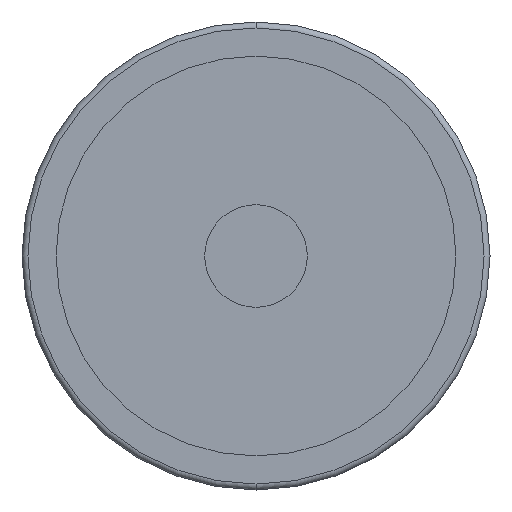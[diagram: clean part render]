
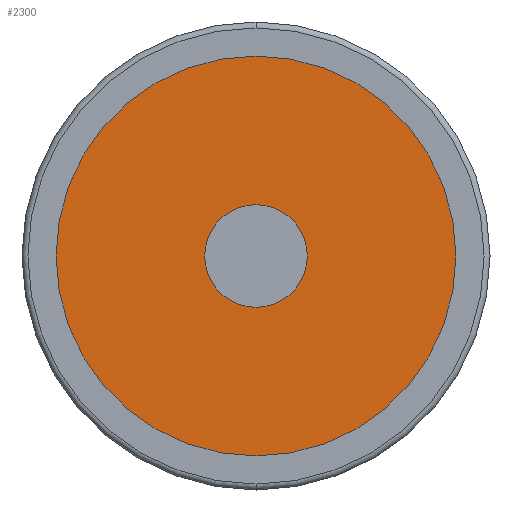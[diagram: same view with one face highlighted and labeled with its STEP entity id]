
A CAD part, front view. The second image highlights one B-rep face of the part: STEP entity #2300.
In plain terms, the highlighted planar face has unit normal (0, -1, 0).
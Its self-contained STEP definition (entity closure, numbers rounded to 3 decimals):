
#52 = CARTESIAN_POINT ( 'NONE',  ( 0., 4.5, 0. ) ) ;
#255 = CARTESIAN_POINT ( 'NONE',  ( -8., 4.5, 0. ) ) ;
#294 = CIRCLE ( 'NONE', #2075, 34.25 ) ;
#371 = DIRECTION ( 'NONE',  ( 0., -1., 0. ) ) ;
#394 = EDGE_CURVE ( 'NONE', #1654, #688, #294, .T. ) ;
#430 = AXIS2_PLACEMENT_3D ( 'NONE', #1537, #986, #1012 ) ;
#452 = DIRECTION ( 'NONE',  ( 0., -1., 0. ) ) ;
#474 = DIRECTION ( 'NONE',  ( 0., -1., 0. ) ) ;
#505 = AXIS2_PLACEMENT_3D ( 'NONE', #1980, #1177, #2336 ) ;
#527 = DIRECTION ( 'NONE',  ( 1., 0., 0. ) ) ;
#625 = VERTEX_POINT ( 'NONE', #255 ) ;
#688 = VERTEX_POINT ( 'NONE', #1585 ) ;
#698 = EDGE_CURVE ( 'NONE', #688, #1654, #1002, .T. ) ;
#748 = CARTESIAN_POINT ( 'NONE',  ( -34.25, 4.5, 0. ) ) ;
#779 = CARTESIAN_POINT ( 'NONE',  ( 8., 4.5, 0. ) ) ;
#882 = AXIS2_PLACEMENT_3D ( 'NONE', #52, #452, #1631 ) ;
#915 = EDGE_CURVE ( 'NONE', #2077, #625, #1076, .T. ) ;
#927 = FACE_BOUND ( 'NONE', #1726, .T. ) ;
#984 = ORIENTED_EDGE ( 'NONE', *, *, #915, .F. ) ;
#986 = DIRECTION ( 'NONE',  ( 0., -1., 0. ) ) ;
#1002 = CIRCLE ( 'NONE', #505, 34.25 ) ;
#1012 = DIRECTION ( 'NONE',  ( 1., 0., 0. ) ) ;
#1042 = ORIENTED_EDGE ( 'NONE', *, *, #698, .T. ) ;
#1076 = CIRCLE ( 'NONE', #430, 8. ) ;
#1156 = CARTESIAN_POINT ( 'NONE',  ( 34.25, 4.5, 0. ) ) ;
#1177 = DIRECTION ( 'NONE',  ( 0., -1., 0. ) ) ;
#1227 = CARTESIAN_POINT ( 'NONE',  ( 0., 4.5, 0. ) ) ;
#1316 = EDGE_CURVE ( 'NONE', #625, #2077, #2432, .T. ) ;
#1488 = EDGE_LOOP ( 'NONE', ( #1042, #1625 ) ) ;
#1537 = CARTESIAN_POINT ( 'NONE',  ( 0., 4.5, 0. ) ) ;
#1585 = CARTESIAN_POINT ( 'NONE',  ( -34.25, 4.5, 0. ) ) ;
#1625 = ORIENTED_EDGE ( 'NONE', *, *, #394, .T. ) ;
#1631 = DIRECTION ( 'NONE',  ( 1., 0., 0. ) ) ;
#1654 = VERTEX_POINT ( 'NONE', #1156 ) ;
#1726 = EDGE_LOOP ( 'NONE', ( #984, #2145 ) ) ;
#1976 = DIRECTION ( 'NONE',  ( 1., 0., 0. ) ) ;
#1980 = CARTESIAN_POINT ( 'NONE',  ( 0., 4.5, 0. ) ) ;
#2075 = AXIS2_PLACEMENT_3D ( 'NONE', #1227, #474, #1976 ) ;
#2077 = VERTEX_POINT ( 'NONE', #779 ) ;
#2098 = FACE_OUTER_BOUND ( 'NONE', #1488, .T. ) ;
#2145 = ORIENTED_EDGE ( 'NONE', *, *, #1316, .F. ) ;
#2238 = PLANE ( 'NONE',  #2362 ) ;
#2300 = ADVANCED_FACE ( 'NONE', ( #2098, #927 ), #2238, .T. ) ;
#2336 = DIRECTION ( 'NONE',  ( 1., 0., 0. ) ) ;
#2362 = AXIS2_PLACEMENT_3D ( 'NONE', #748, #371, #527 ) ;
#2432 = CIRCLE ( 'NONE', #882, 8. ) ;
